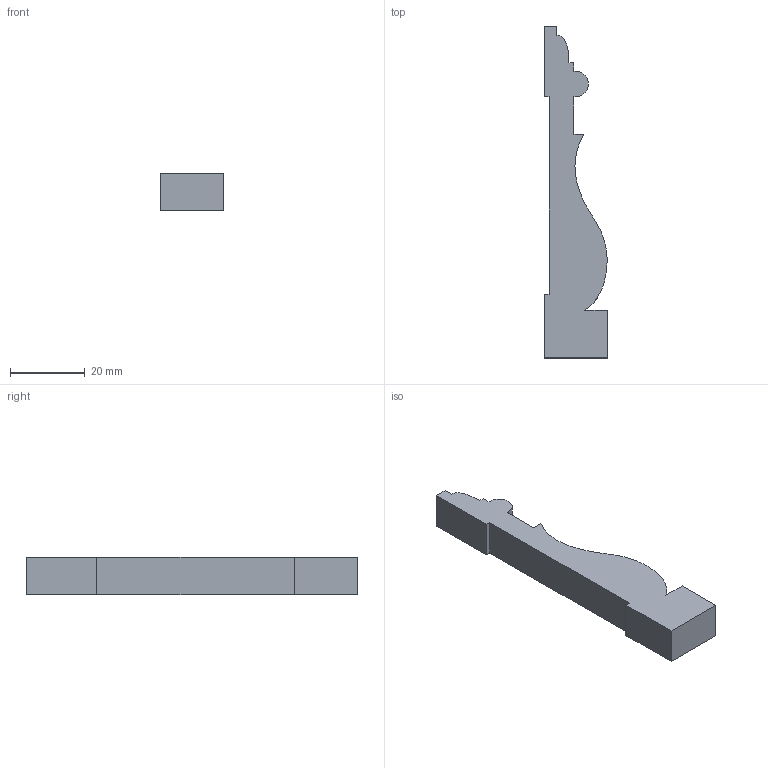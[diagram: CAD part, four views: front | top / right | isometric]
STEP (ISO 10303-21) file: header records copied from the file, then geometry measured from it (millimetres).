
FILE_DESCRIPTION (( 'STEP AP203' ), '1' );
FILE_NAME ('AB128FJ.STEP', '2024-02-17T09:19:08', ( '' ), ( '' ), 'SwSTEP 2.0', 'SolidWorks 2020', '' );
FILE_SCHEMA (( 'CONFIG_CONTROL_DESIGN' ));
Length unit declared in the file: millimetre
Products named in the file (1): AB128FJ
Bounding box: 16.89 x 88.9 x 10 mm (x, y, z)
Volume: 9669 mm3; surface area: 4143.2 mm2
Topology: 1 solids, 1 shells, 52 faces, 150 edges, 100 vertices
Faces by surface type: plane 50, cylinder 1, bspline 1
Entity records: 1755 total; most frequent: CARTESIAN_POINT 312, ORIENTED_EDGE 300, DIRECTION 254, EDGE_CURVE 150, LINE 146, VECTOR 146, VERTEX_POINT 100, AXIS2_PLACEMENT_3D 54
